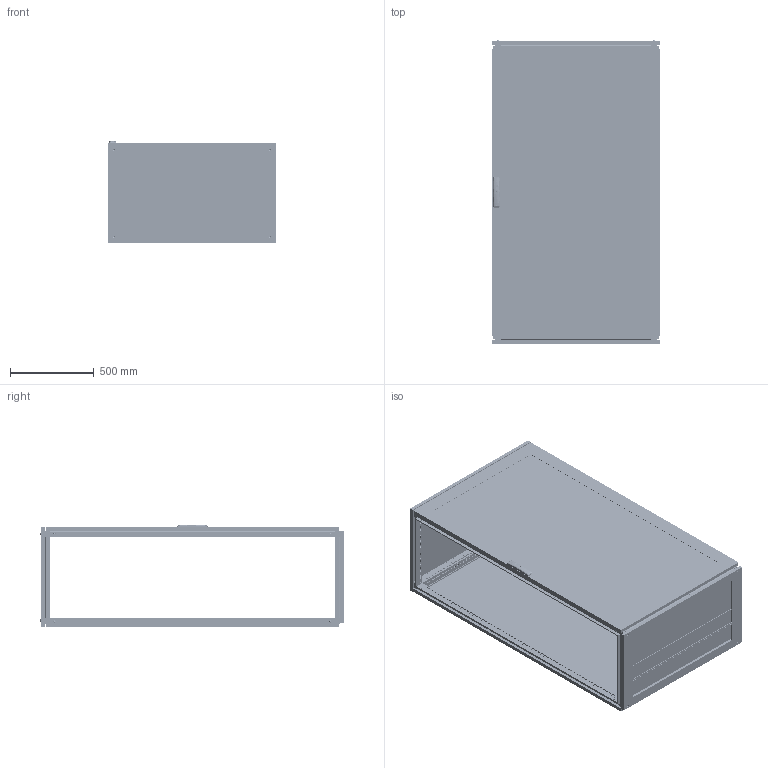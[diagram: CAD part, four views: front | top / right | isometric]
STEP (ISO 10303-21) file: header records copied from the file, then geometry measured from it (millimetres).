
FILE_DESCRIPTION (( 'STEP AP203' ), '1' );
FILE_NAME ('R5CQEN18106AX.STEP', '2025-05-07T11:54:33', ( '' ), ( '' ), 'SwSTEP 2.0', 'SolidWorks 2022', '' );
FILE_SCHEMA (( 'CONFIG_CONTROL_DESIGN' ));
Length unit declared in the file: millimetre
Products named in the file (66): TPA.08.0084.00.00.0 simple; RB.2499.00.00.0 СБ simple_-26; ATOS Traction guide ILY03.35; RB.0562.00.00.0 СБ simple_-14; RB.1633.00.02.0 simple_-02; RB.2686.00.00.0 simple; Pin 4x16 DIN 7 AISI 303 (A1) simple; R5CQEN18106AX; PF 7x14 CRE simple_1800x1000; RB.2456.00.00.0 simple_-02; RB.0528.04.00.0 СБ simple; M6x10 DIN 7500 E HX cl.5.8 Zinc_straight; RB.2052.01.00.0 СБ simple_-19; RB.1633.00.01.0 simple_-04; Glass CPTE_1800x1000; RB.2528.00.00.0 simple_-04; PF 7,5x15 CPE simple_1800x1000; RB.1867.01.00.0 СБ simple_-60; RB.2357.00.00.0 simple_-07; RB.2499.01.00.0 СБ simple_-25; TPA.08.0083.00.00.0 simple; RB.2696.00.00.0 simple; RB.1957.00.00.0 simple_-16; R5NKMN - Assem simple_R5NKMN18 (1000х600); RB.2685.00.00.0 simple_-02; RB.2680.00.00.0 СБ simple; RB.2172.00.00.1 simple; RB.0528.04.01.0 simple; Square cap 20x20 simple; 4,0x16 F Torx Zinc (ART 88200)_thread; M6 DIN 985 cl.6,0 Zinc_straight; M6x10 DIN 7500 M Torx cl.5.8 Zinc_straight; M6x15 Erickson cl.4,8 Zinc; TPA.08.0139.00.01.0 simple; RB.0528.00.01.0 simple_-04; RB.0562.01.00.0 СБ simple_-14; M6x10 DIN 912 HX cl.8,8 Zinc_straight; RB.2680.00.01.0 simple; Pressing stud FH-M6-12_M6x12mm; RB.2680.00.02.0 simple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
Assembly tree (176 placements, depth 5):
  R5CQEN18106AX
    R5NCPTE - Assem simple_R5NCPTE18100
      RB.0562.00.00.0 СБ simple_-14
        RB.0562.01.00.0 СБ simple_-14
          RB.0562.01.01.0 simple_-14
          М6х12 A5100231_straight  x9
          RB.2702.00.00.0 simple  x4
          PF 7,5x15 CPE simple_1800x1000
          Glass CPTE_1800x1000
          Glue CPTE simple_1800x1000
        Square cap 20x20 simple  x2
        M6x15 Erickson cl.4,8 Zinc  x3
        RB.0528.00.01.0 simple_-04  x2
        ATOS Traction guide ILY03.35  x4
        RB.2357.00.00.0 simple_-07
        RB.2680.00.00.0 СБ simple
          TPA.08.0139.00.01.0 simple
          RB.2680.00.01.0 simple
          RB.2680.00.02.0 simple  x2
        TPA.08.0139.00.03.0  x2
        M6 DIN 985 cl.6,0 Zinc_straight  x4
        4,0x16 F Torx Zinc (ART 88200)_thread  x2
        RB.0528.04.00.0 СБ simple  x2
          RB.0528.04.01.0 simple
          Pressing stud FH-M6-12_M6x12mm
      M6x10 DIN 912 HX cl.8,8 Zinc_straight  x8
      4.8x13 DIN 7981 PH Zinc_straight
      7 DIN 6799 Zinc simple  x4
      RB.2968.00.00.0 simple  x4
      RB.2969.00.00.0 СБ simple  x4
        RB.2969.00.01.0 simple
        Pin 4x16 DIN 7 AISI 303 (A1) simple
        M6 MGR-MKO-0625 simple_Thread
      AC00C446-R
      RB.2696.00.00.0 simple  x4
      7 DIN 6799 Zinc  x4
    R5NCRE-Assem simple_R5NCRE18100
      RB.2052.00.00.0 СБ simple_-19
        RB.2052.01.00.0 СБ simple_-19
          RB.0054.01.01.0 simple_-19
          М6х12 A5100231_straight  x4
        PF 7x14 CRE simple_1800x1000
      RB.2172.00.00.1 simple  x8
      M6x10 DIN 7500 E HX cl.5.8 Zinc_straight  x8
      M6x10 DIN 7500 M Torx cl.5.8 Zinc_straight  x8
    R5NKMN - Assem simple_R5NKMN18 (1000х600)
      RB.2528.00.00.0 simple_-04  x4
    R5NKTB - Assem simple_H=1800 R5NKTB106
      RB.2499.00.00.0 СБ simple_-26
        RB.2499.01.00.0 СБ simple_-25
          RB.1633.00.01.0 simple_-04  x2
          RB.1633.00.02.0 simple_-02  x2
          PF 5x10 KTB simple_1000x600
        RB.2457.00.00.0 СБ simple_-26
          RB.2455.00.00.0 simple_-04  x2
          RB.2456.00.00.0 simple_-02  x2
          TPA.08.0084.00.00.0 simple  x2
          TPA.08.0083.00.00.0 simple  x2
          M8x12 AC00C476 cl.8,8 Zinc_stright  x4
        RB.1957.00.00.0 simple_-15  x2
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Bounding box: 1000 x 1813.3 x 614.74 mm (x, y, z)
Volume: 19875217.1 mm3; surface area: 17044430.8 mm2
Topology: 179 solids, 195 shells, 23005 faces, 65335 edges, 43044 vertices
Faces by surface type: plane 12723, cylinder 8731, cone 714, bspline 435, torus 368, sphere 34
Entity records: 231200 total; most frequent: CARTESIAN_POINT 56512, ORIENTED_EDGE 34638, DIRECTION 33163, EDGE_CURVE 17345, VERTEX_POINT 11486, AXIS2_PLACEMENT_3D 11160, LINE 10843, VECTOR 10843
